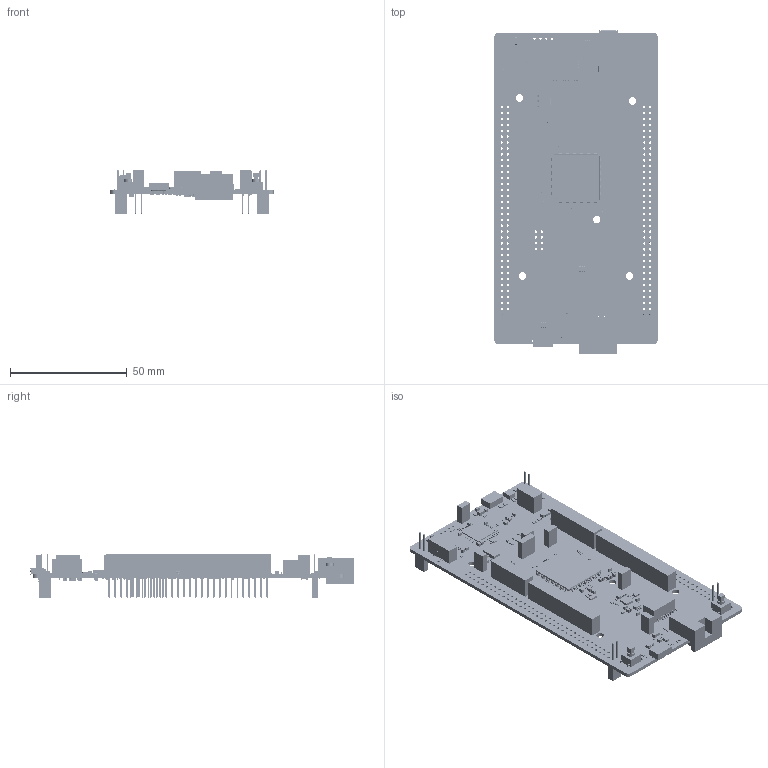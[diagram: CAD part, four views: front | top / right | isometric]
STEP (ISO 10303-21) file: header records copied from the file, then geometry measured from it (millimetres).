
FILE_DESCRIPTION(('Open CASCADE Model'),'2;1');
FILE_NAME('Open CASCADE Shape Model','2018-08-24T15:50:53',('Author'),( 'Open CASCADE'),'Open CASCADE STEP processor 6.8','Open CASCADE 6.8' ,'Unknown');
FILE_SCHEMA(('AUTOMOTIVE_DESIGN { 1 0 10303 214 1 1 1 1 }'));
Length unit declared in the file: millimetre
Products named in the file (533): PCB; Board; R73; R0603; 1774527144; Extruded; R72; R27; 1774534896; R75; R74; R26; Q3; SOT23-3_TO-236AB; 1774537072; Q2; LD3; 1774527960; 1774528096; 1774528232; 1774528368; 1773143472; Cylinder; LD2; 1774528776; 1774528912; 1774529048; 1774529184; SB45; 1774535440; SB41; SB37; R0402; 1774536664; SB42; SB33; SB93; SB73; 1774535576; SB30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
Assembly tree (1314 placements, depth 4):
  PCB
    Board
    R73
      R0603
      1774527144
        Extruded
    R72
      R0603
      1774527144
        Extruded
    R27
      R0603
      1774534896
        Extruded
    R75
      R0603
      1774527144
        Extruded
    R74
      R0603
      1774527144
        Extruded
    R26
      R0603
      1774534896
        Extruded
    Q3
      SOT23-3_TO-236AB
      1774537072
        Extruded
    Q2
      SOT23-3_TO-236AB
      1774537072
        Extruded
    LD3
      1774527960  x2
        Extruded
      1774528096  x2
        Extruded
      1774528232
        Extruded
      1774528368
        Extruded
      1773143472
        Cylinder
    LD2
      1774528776
        Extruded
      1774528912
        Extruded
      1774529048  x2
        Extruded
      1774529184  x2
        Extruded
    SB45
      R0603
      1774535440
        Extruded
    SB41
      R0603
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Bounding box: 70 x 138.56 x 18.57 mm (x, y, z)
Volume: 32440 mm3; surface area: 48075.2 mm2
Topology: 1308 solids, 2224 shells, 41519 faces, 100657 edges, 61441 vertices
Faces by surface type: plane 19666, cylinder 9611, bspline 8349, sphere 3029, torus 470, revolution 392, cone 2
Full cylindrical faces by diameter (mm): 0.2 x2, 0.3 x1, 0.4 x16, 0.5 x1, 0.6 x1, 0.7 x12, 0.9 x2, 0.97 x2, 1 x183, 1.1 x100, 1.19 x2, 1.5 x2, 3.2 x5, 3.4 x2
Entity records: 326432 total; most frequent: CARTESIAN_POINT 64966, DIRECTION 45357, ORIENTED_EDGE 44503, EDGE_CURVE 22934, LINE 18915, VECTOR 18915, VERTEX_POINT 15208, AXIS2_PLACEMENT_3D 13217
